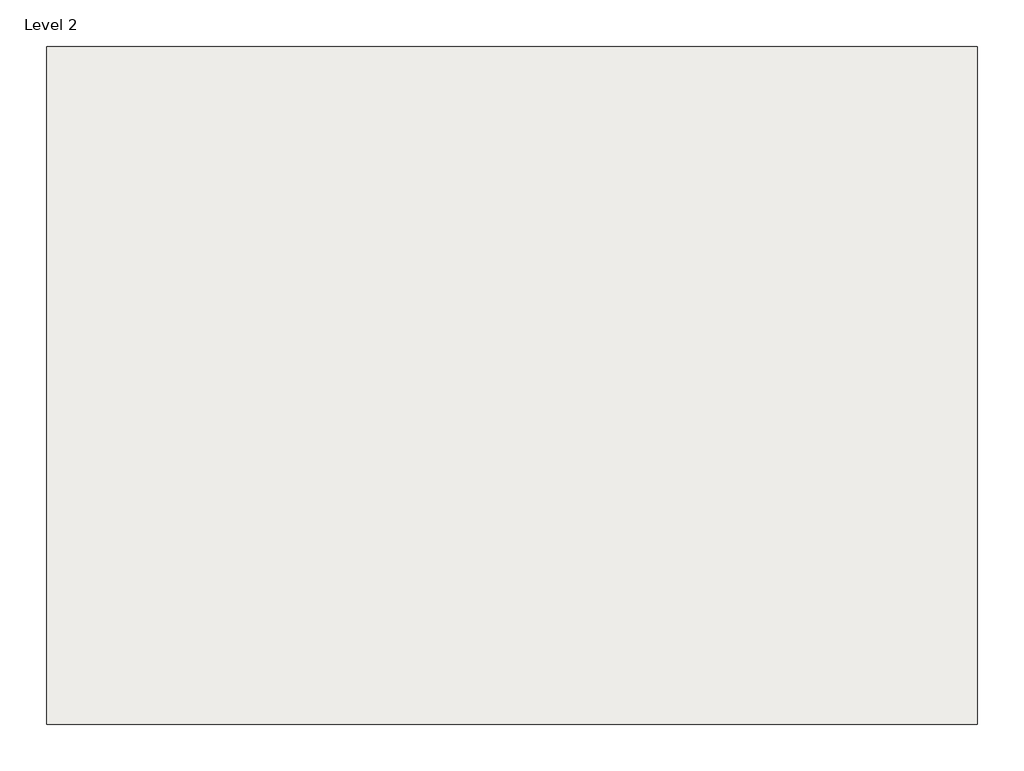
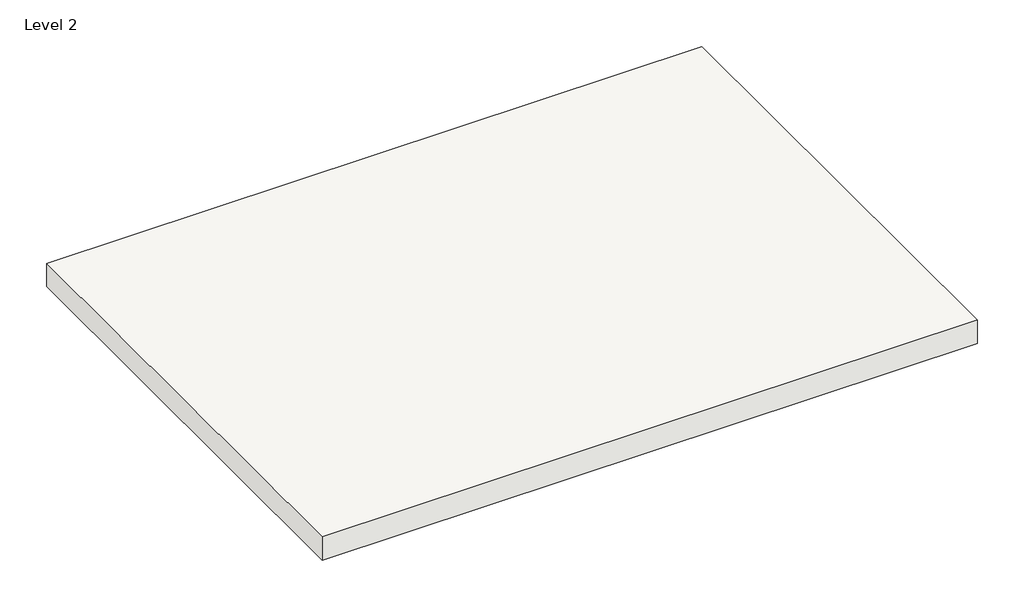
# One storey: 1 slab.
"""IFC4 building model written with IfcOpenShell, lengths in millimetres."""

from ifc_helpers import new_model, si_unit, frame, origin, place, context, project, spatial, polyline, outline, extrude, element, save

model = new_model("IFC4")

# Units and contexts
model_context = context("Model", 3, world=origin())
ifc_project = project(units=[si_unit("LENGTHUNIT", "METRE", prefix="MILLI")], contexts=[model_context])

# Site, building, storey
site = spatial("IfcSite", under=ifc_project)
building = spatial("IfcBuilding", under=site)
storey = spatial("IfcBuildingStorey", under=building, Name="Level 2", Elevation=4000.0)

# Slab
placement = place(None, origin())
element("IfcSlab", 1, ObjectType="Generic Floor - 400mm", at=placement, inside=storey, context=model_context, shape_type="SweptSolid", body=[
    extrude(outline(polyline([(-9162.7756539, 17331.5155968), (-9162.7756539, 9559.1155968), (-19830.7756539, 9559.1155968), (-19830.7756539, 17331.5155968), (-9162.7756539, 17331.5155968)])), frame((0.0, 0.0, 3600.0492187), z_axis=(0.0, 0.0, 1.0), x_axis=(1.0, 0.0, 0.0)), (0.0, 0.0, 1.0), 399.9507813),
])

save(model, "model.ifc")
